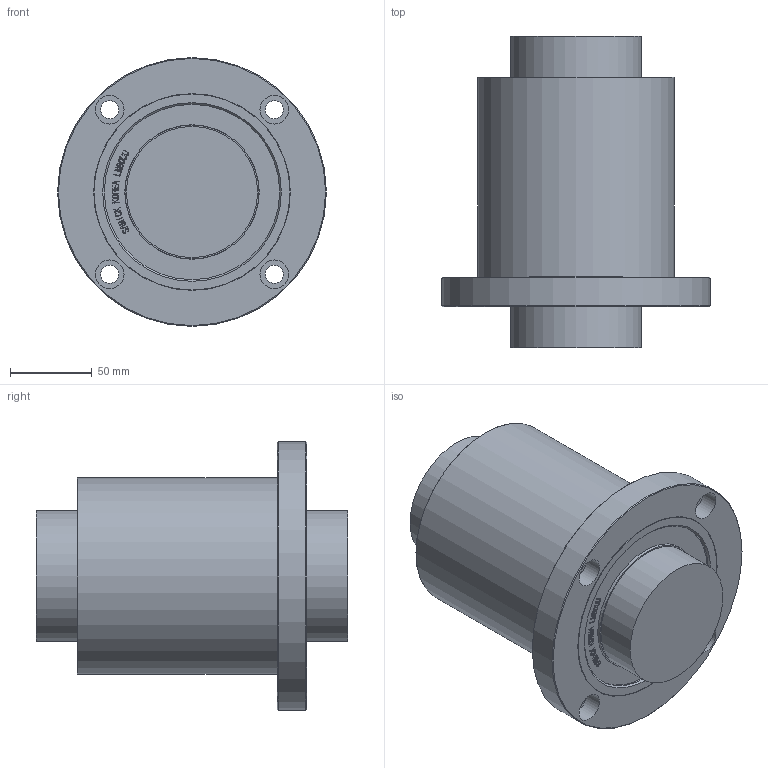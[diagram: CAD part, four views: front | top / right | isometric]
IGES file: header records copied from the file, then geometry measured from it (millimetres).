
Global section: file name: No Iges File Name specified; native system: Autodesk Inventor 2012; preprocessor: AutoDesk Inventor Iges Exporter R2012; author: user2; date: 20130206.160510; units: millimetre
Bounding box: 164 x 190 x 164 mm (x, y, z)
Volume: 1982520.1 mm3; surface area: 114468.4 mm2
Topology: 1 solids, 1 shells, 859 faces, 2387 edges, 1590 vertices
Faces by surface type: bspline 612, plane 224, revolution 13, cone 4, cylinder 4, torus 2
Full cylindrical faces by diameter (mm): 80 x2, 120 x1, 164 x1
